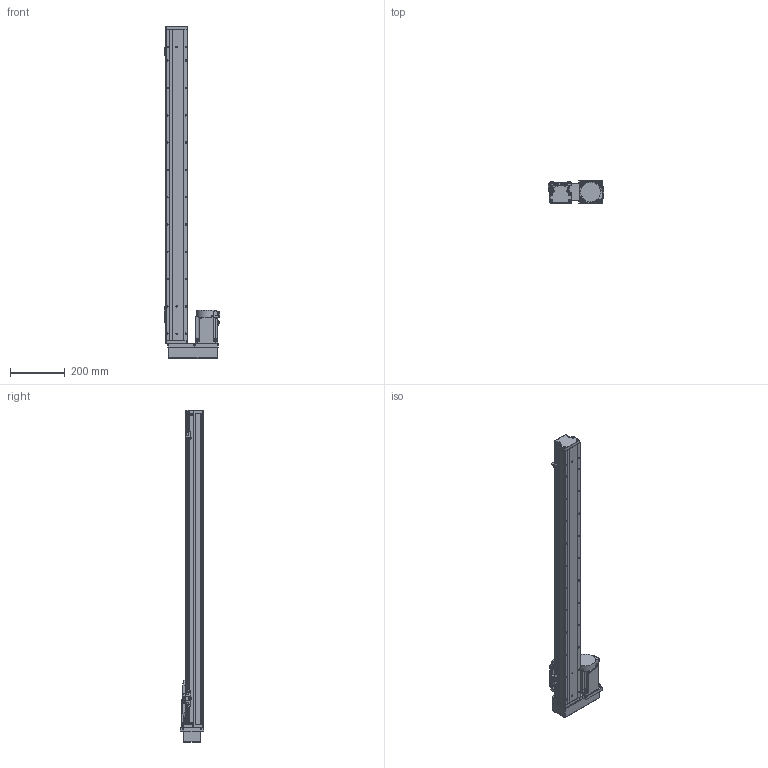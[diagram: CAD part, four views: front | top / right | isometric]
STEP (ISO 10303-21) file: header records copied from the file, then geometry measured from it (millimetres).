
FILE_DESCRIPTION (( 'STEP AP203' ), '1' );
FILE_NAME ('GTH8-950-BR-M75-C4.step', '2023-02-14T02:35:25', ( '微软用户' ), ( '微软中国' ), 'SwSTEP 2.0', 'SolidWorks 2020', '' );
FILE_SCHEMA (( 'CONFIG_CONTROL_DESIGN' ));
Length unit declared in the file: millimetre
Products named in the file (18): GTH80-001_950; GBT 70.1-M3℅6; CTHA86-015-3_CTHA86-015-4; GTH80-003; GBT 70.1-M4×16; CTHA86-035; GTH80-004; GTH80-028; hg-kn73j_-s100; GTH80-006; GTH50-024; GTH8-950-BR-M75-C4; GTH80-013; GTH50-023; GBT 70.3-M3℅6; GBT96.1-2002 3×0.8; GTH80-022; BTH-M3X5X6
Assembly tree (57 placements, depth 2):
  GTH8-950-BR-M75-C4
    GTH80-001_950
    GTH80-003
    GTH80-004
    GTH80-006
    GTH80-013
    GBT 70.3-M3℅6  x4
    GTH80-022
    GBT 70.1-M3℅6  x14
    GBT 70.1-M4×16  x8
    GTH80-028  x2
    GTH50-024  x3
    GTH50-023  x3
    GBT96.1-2002 3×0.8  x6
    BTH-M3X5X6  x8
    CTHA86-015-3_CTHA86-015-4
    CTHA86-035
    hg-kn73j_-s100
Bounding box: 204.7 x 87 x 1216 mm (x, y, z)
Volume: 6479594.1 mm3; surface area: 623347.6 mm2
Topology: 59 solids, 59 shells, 2211 faces, 5142 edges, 3152 vertices
Faces by surface type: plane 1153, cylinder 643, cone 243, torus 158, sphere 12, bspline 2
Entity records: 40180 total; most frequent: CARTESIAN_POINT 6743, DIRECTION 6641, ORIENTED_EDGE 6094, EDGE_CURVE 3047, AXIS2_PLACEMENT_3D 2350, LINE 1941, VECTOR 1941, VERTEX_POINT 1927
